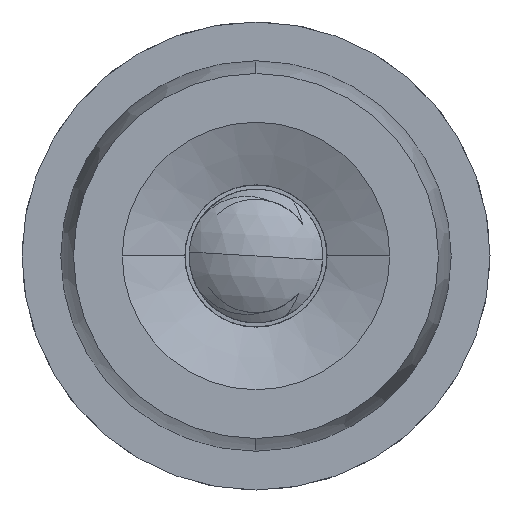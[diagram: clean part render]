
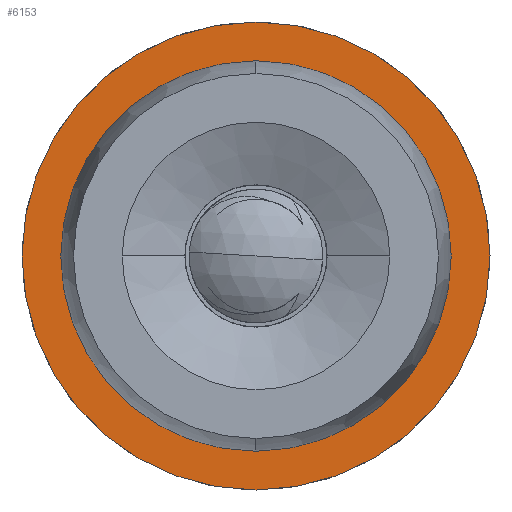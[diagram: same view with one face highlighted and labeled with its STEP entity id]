
A CAD part, left-side view. The second image highlights one B-rep face of the part: STEP entity #6153.
In plain terms, the highlighted planar face has unit normal (-1, 0, 0).
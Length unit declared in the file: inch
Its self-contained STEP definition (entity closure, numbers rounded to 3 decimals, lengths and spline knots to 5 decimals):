
#635 = VERTEX_POINT ( 'NONE', #17670 ) ;
#845 = DIRECTION ( 'NONE',  ( -1., 0., 0. ) ) ;
#3281 = EDGE_CURVE ( 'NONE', #7405, #11664, #13947, .T. ) ;
#3291 = CARTESIAN_POINT ( 'NONE',  ( 1.6222, 1.27982, 1.00285 ) ) ;
#4101 = DIRECTION ( 'NONE',  ( -1., 0., 0. ) ) ;
#4364 = AXIS2_PLACEMENT_3D ( 'NONE', #7429, #18921, #9151 ) ;
#5000 = CARTESIAN_POINT ( 'NONE',  ( 1.6222, 1.27982, 1.44035 ) ) ;
#5034 = ORIENTED_EDGE ( 'NONE', *, *, #8803, .F. ) ;
#5085 = EDGE_LOOP ( 'NONE', ( #16582, #13021 ) ) ;
#5542 = AXIS2_PLACEMENT_3D ( 'NONE', #15678, #5600, #17231 ) ;
#5600 = DIRECTION ( 'NONE',  ( -1., 0., 0. ) ) ;
#5840 = ORIENTED_EDGE ( 'NONE', *, *, #7529, .F. ) ;
#6153 = ADVANCED_FACE ( 'NONE', ( #20412, #7908 ), #18760, .T. ) ;
#6563 = CARTESIAN_POINT ( 'NONE',  ( 1.6222, 1.27982, 1.07535 ) ) ;
#6734 = DIRECTION ( 'NONE',  ( 0., 0., 1. ) ) ;
#7405 = VERTEX_POINT ( 'NONE', #18900 ) ;
#7429 = CARTESIAN_POINT ( 'NONE',  ( 1.6222, 1.27982, 1.44035 ) ) ;
#7529 = EDGE_CURVE ( 'NONE', #635, #7688, #8376, .T. ) ;
#7688 = VERTEX_POINT ( 'NONE', #6563 ) ;
#7800 = CIRCLE ( 'NONE', #9496, 0.365 ) ;
#7908 = FACE_BOUND ( 'NONE', #16322, .T. ) ;
#8214 = CIRCLE ( 'NONE', #4364, 0.4375 ) ;
#8376 = CIRCLE ( 'NONE', #20206, 0.365 ) ;
#8803 = EDGE_CURVE ( 'NONE', #7688, #635, #7800, .T. ) ;
#9151 = DIRECTION ( 'NONE',  ( 0., 0., 1. ) ) ;
#9496 = AXIS2_PLACEMENT_3D ( 'NONE', #5000, #16687, #6734 ) ;
#11130 = EDGE_CURVE ( 'NONE', #11664, #7405, #8214, .T. ) ;
#11246 = CARTESIAN_POINT ( 'NONE',  ( 1.6222, 1.27982, 1.44035 ) ) ;
#11664 = VERTEX_POINT ( 'NONE', #3291 ) ;
#12914 = DIRECTION ( 'NONE',  ( 0., 0., 1. ) ) ;
#13021 = ORIENTED_EDGE ( 'NONE', *, *, #11130, .T. ) ;
#13947 = CIRCLE ( 'NONE', #21021, 0.4375 ) ;
#14318 = CARTESIAN_POINT ( 'NONE',  ( 1.6222, 1.27982, 1.44035 ) ) ;
#15678 = CARTESIAN_POINT ( 'NONE',  ( 1.6222, 1.27982, 1.07535 ) ) ;
#15894 = DIRECTION ( 'NONE',  ( 0., 0., 1. ) ) ;
#16322 = EDGE_LOOP ( 'NONE', ( #5840, #5034 ) ) ;
#16582 = ORIENTED_EDGE ( 'NONE', *, *, #3281, .T. ) ;
#16687 = DIRECTION ( 'NONE',  ( -1., 0., 0. ) ) ;
#17231 = DIRECTION ( 'NONE',  ( 0., 0., 1. ) ) ;
#17670 = CARTESIAN_POINT ( 'NONE',  ( 1.6222, 1.27982, 1.80535 ) ) ;
#18760 = PLANE ( 'NONE',  #5542 ) ;
#18900 = CARTESIAN_POINT ( 'NONE',  ( 1.6222, 1.27982, 1.87785 ) ) ;
#18921 = DIRECTION ( 'NONE',  ( -1., 0., 0. ) ) ;
#20206 = AXIS2_PLACEMENT_3D ( 'NONE', #11246, #845, #12914 ) ;
#20412 = FACE_OUTER_BOUND ( 'NONE', #5085, .T. ) ;
#21021 = AXIS2_PLACEMENT_3D ( 'NONE', #14318, #4101, #15894 ) ;
